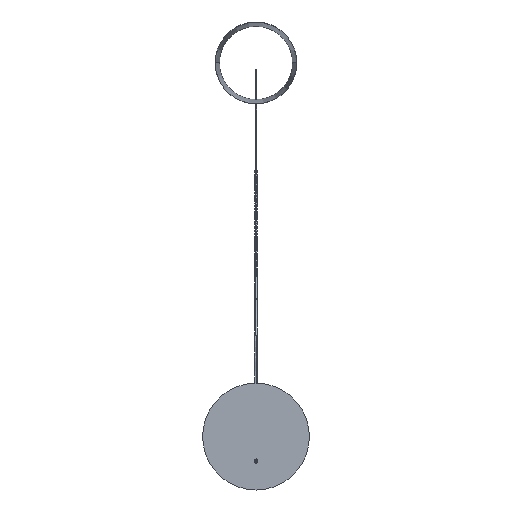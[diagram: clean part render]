
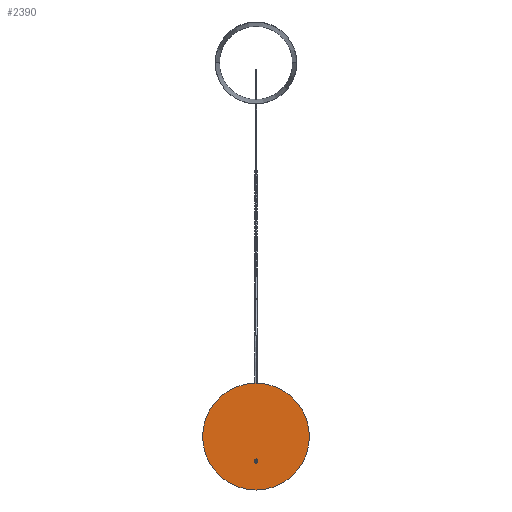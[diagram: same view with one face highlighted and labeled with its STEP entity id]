
A CAD part, front view. The second image highlights one B-rep face of the part: STEP entity #2390.
In plain terms, the highlighted planar face has unit normal (0, -1, 0).
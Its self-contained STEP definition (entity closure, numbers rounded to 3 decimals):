
#158 = CIRCLE ( 'NONE', #6040, 2. ) ;
#176 = CARTESIAN_POINT ( 'NONE',  ( 0., 0., -300. ) ) ;
#223 = DIRECTION ( 'NONE',  ( 0., 0., 1. ) ) ;
#229 = DIRECTION ( 'NONE',  ( 0., 1., 0. ) ) ;
#283 = FACE_OUTER_BOUND ( 'NONE', #1646, .T. ) ;
#286 = ORIENTED_EDGE ( 'NONE', *, *, #4989, .T. ) ;
#1035 = VERTEX_POINT ( 'NONE', #2501 ) ;
#1088 = VERTEX_POINT ( 'NONE', #4235 ) ;
#1558 = DIRECTION ( 'NONE',  ( 0., 1., 0. ) ) ;
#1646 = EDGE_LOOP ( 'NONE', ( #7059, #5418 ) ) ;
#2337 = DIRECTION ( 'NONE',  ( 0., 1., 0. ) ) ;
#2390 = ADVANCED_FACE ( 'NONE', ( #2736, #283 ), #8609, .F. ) ;
#2501 = CARTESIAN_POINT ( 'NONE',  ( 1.672, 0., -130.902 ) ) ;
#2736 = FACE_BOUND ( 'NONE', #5363, .T. ) ;
#2756 = ORIENTED_EDGE ( 'NONE', *, *, #10446, .T. ) ;
#2838 = CIRCLE ( 'NONE', #7473, 300. ) ;
#3177 = AXIS2_PLACEMENT_3D ( 'NONE', #10620, #4685, #8085 ) ;
#3226 = VERTEX_POINT ( 'NONE', #176 ) ;
#3410 = CARTESIAN_POINT ( 'NONE',  ( 0., 0., 0. ) ) ;
#3469 = DIRECTION ( 'NONE',  ( 0., 0., 1. ) ) ;
#4235 = CARTESIAN_POINT ( 'NONE',  ( -1.672, 0., -130.902 ) ) ;
#4685 = DIRECTION ( 'NONE',  ( 0., 1., 0. ) ) ;
#4708 = VERTEX_POINT ( 'NONE', #8274 ) ;
#4731 = ORIENTED_EDGE ( 'NONE', *, *, #5874, .T. ) ;
#4989 = EDGE_CURVE ( 'NONE', #1035, #4708, #5313, .T. ) ;
#5313 = CIRCLE ( 'NONE', #6034, 9.25 ) ;
#5363 = EDGE_LOOP ( 'NONE', ( #286, #2756, #9671, #4731 ) ) ;
#5418 = ORIENTED_EDGE ( 'NONE', *, *, #10114, .F. ) ;
#5433 = CARTESIAN_POINT ( 'NONE',  ( 0., 0., -130. ) ) ;
#5874 = EDGE_CURVE ( 'NONE', #7224, #1035, #10681, .T. ) ;
#6034 = AXIS2_PLACEMENT_3D ( 'NONE', #9123, #9911, #7563 ) ;
#6040 = AXIS2_PLACEMENT_3D ( 'NONE', #7366, #2337, #8193 ) ;
#6139 = DIRECTION ( 'NONE',  ( 0., 0., 1. ) ) ;
#6244 = DIRECTION ( 'NONE',  ( 0., 1., 0. ) ) ;
#6471 = EDGE_CURVE ( 'NONE', #1088, #7224, #158, .T. ) ;
#6813 = DIRECTION ( 'NONE',  ( 0., 1., 0. ) ) ;
#7059 = ORIENTED_EDGE ( 'NONE', *, *, #9633, .F. ) ;
#7224 = VERTEX_POINT ( 'NONE', #5433 ) ;
#7366 = CARTESIAN_POINT ( 'NONE',  ( 0., 0., -132. ) ) ;
#7473 = AXIS2_PLACEMENT_3D ( 'NONE', #3410, #6813, #3469 ) ;
#7563 = DIRECTION ( 'NONE',  ( 0., 0., 1. ) ) ;
#7829 = AXIS2_PLACEMENT_3D ( 'NONE', #9217, #1558, #8087 ) ;
#7867 = CARTESIAN_POINT ( 'NONE',  ( 0., 0., -140. ) ) ;
#8085 = DIRECTION ( 'NONE',  ( 0., 0., 1. ) ) ;
#8087 = DIRECTION ( 'NONE',  ( 0., 0., 1. ) ) ;
#8193 = DIRECTION ( 'NONE',  ( 0., 0., 1. ) ) ;
#8274 = CARTESIAN_POINT ( 'NONE',  ( 0., 0., -149.25 ) ) ;
#8609 = PLANE ( 'NONE',  #10294 ) ;
#8721 = CIRCLE ( 'NONE', #7829, 300. ) ;
#9123 = CARTESIAN_POINT ( 'NONE',  ( 0., 0., -140. ) ) ;
#9217 = CARTESIAN_POINT ( 'NONE',  ( 0., 0., 0. ) ) ;
#9502 = CARTESIAN_POINT ( 'NONE',  ( 0., 0., 0. ) ) ;
#9609 = VERTEX_POINT ( 'NONE', #10057 ) ;
#9614 = CIRCLE ( 'NONE', #9792, 9.25 ) ;
#9633 = EDGE_CURVE ( 'NONE', #3226, #9609, #8721, .T. ) ;
#9671 = ORIENTED_EDGE ( 'NONE', *, *, #6471, .T. ) ;
#9792 = AXIS2_PLACEMENT_3D ( 'NONE', #7867, #6244, #223 ) ;
#9911 = DIRECTION ( 'NONE',  ( 0., 1., 0. ) ) ;
#10057 = CARTESIAN_POINT ( 'NONE',  ( 0., 0., 300. ) ) ;
#10114 = EDGE_CURVE ( 'NONE', #9609, #3226, #2838, .T. ) ;
#10294 = AXIS2_PLACEMENT_3D ( 'NONE', #9502, #229, #6139 ) ;
#10446 = EDGE_CURVE ( 'NONE', #4708, #1088, #9614, .T. ) ;
#10620 = CARTESIAN_POINT ( 'NONE',  ( 0., 0., -132. ) ) ;
#10681 = CIRCLE ( 'NONE', #3177, 2. ) ;
